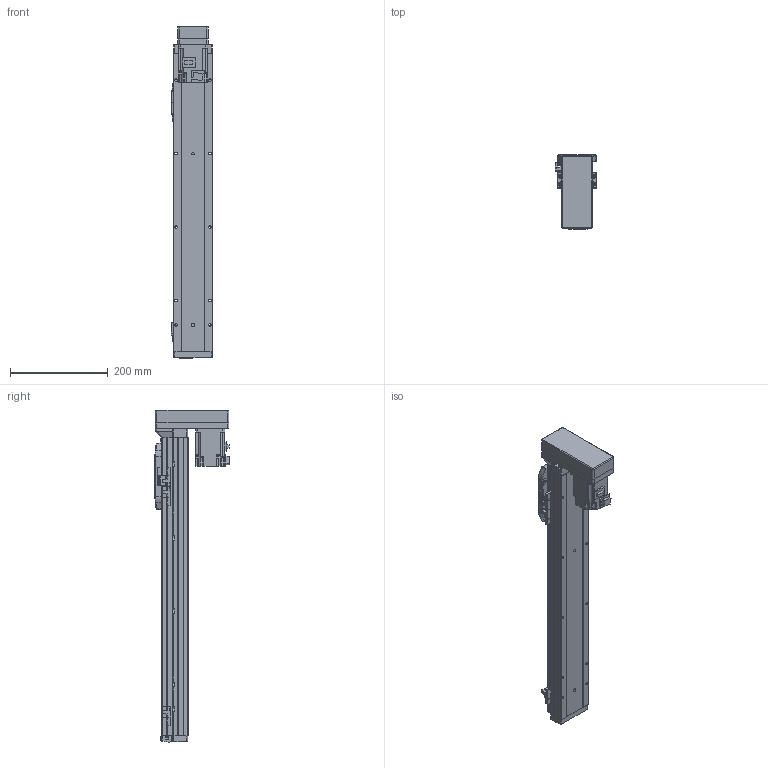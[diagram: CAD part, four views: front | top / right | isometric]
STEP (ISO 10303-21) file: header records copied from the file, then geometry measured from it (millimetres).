
FILE_DESCRIPTION (( 'STEP AP214' ), '1' );
FILE_NAME ('GSH8-450-BM-M20-1.step', '2025-01-07T06:08:21', ( '' ), ( '' ), 'SwSTEP 2.0', 'SolidWorks 2012', '' );
FILE_SCHEMA (( 'AUTOMOTIVE_DESIGN' ));
Length unit declared in the file: millimetre
Products named in the file (5): GSH8-450-BM-M20-1; HG-KR23_200W_Motor; GSH8-BL-008; GSH8-GY-004; GSH8-BL-011-450-M20
Assembly tree (4 placements, depth 2):
  GSH8-450-BM-M20-1
    GSH8-BL-011-450-M20
    GSH8-GY-004
    GSH8-BL-008
    HG-KR23_200W_Motor
Bounding box: 84 x 152.3 x 678.2 mm (x, y, z)
Volume: 1851728.6 mm3; surface area: 442315 mm2
Topology: 4 solids, 8 shells, 1118 faces, 2927 edges, 1882 vertices
Faces by surface type: plane 636, cylinder 386, torus 42, cone 26, bspline 24, sphere 4
Entity records: 44433 total; most frequent: CARTESIAN_POINT 10528, DIRECTION 5939, ORIENTED_EDGE 5838, EDGE_CURVE 2919, AXIS2_PLACEMENT_3D 1997, LINE 1945, VECTOR 1945, VERTEX_POINT 1878
